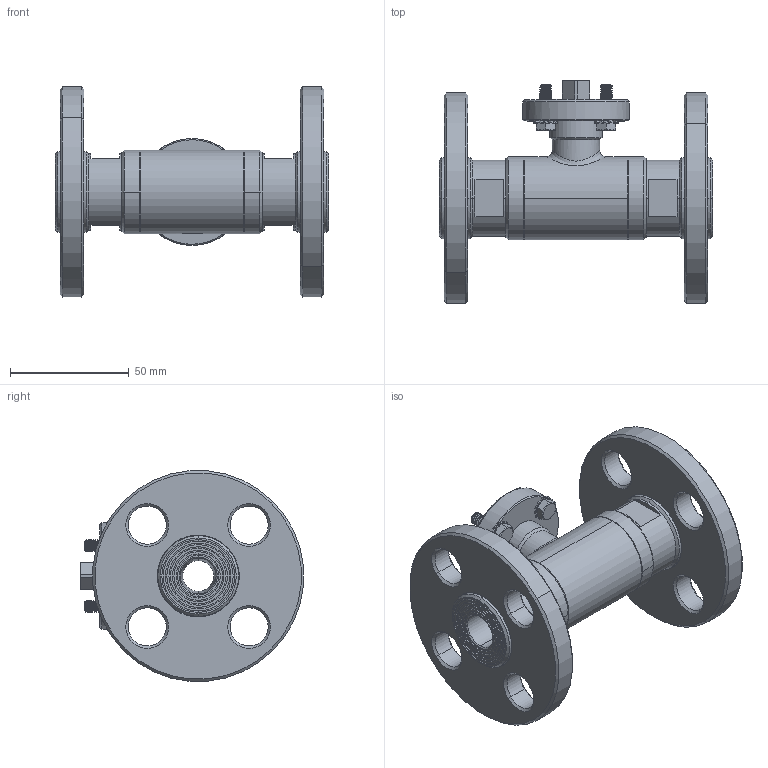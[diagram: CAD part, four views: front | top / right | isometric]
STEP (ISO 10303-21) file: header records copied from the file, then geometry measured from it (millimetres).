
FILE_DESCRIPTION((''),'2;1');
FILE_NAME('10305561410','2023-12-05T14:42:24',('alfio.taboni'),('CDM Tecnoconsulting'),'CREO PARAMETRIC BY PTC INC, 2020053','CREO PARAMETRIC BY PTC INC, 2020053','');
FILE_SCHEMA(('CONFIG_CONTROL_DESIGN','SHAPE_APPEARANCE_LAYERS_GROUPS'));
Products named in the file (1): 10305561410
Bounding box: 115 x 93.78 x 88.56 mm (x, y, z)
Volume: 189141.3 mm3; surface area: 60896.9 mm2
Topology: 1 solids, 1 shells, 1296 faces, 3713 edges, 2365 vertices
Faces by surface type: plane 461, cylinder 368, cone 243, torus 86, bspline 78, extrusion 56, sphere 4
Entity records: 89673 total; most frequent: CARTESIAN_POINT 46090, ORIENTED_EDGE 7414, DIRECTION 6022, PRESENTATION_STYLE_ASSIGNMENT 3708, STYLED_ITEM 3708, CURVE_STYLE 3707, EDGE_CURVE 3707, VERTEX_POINT 2365
